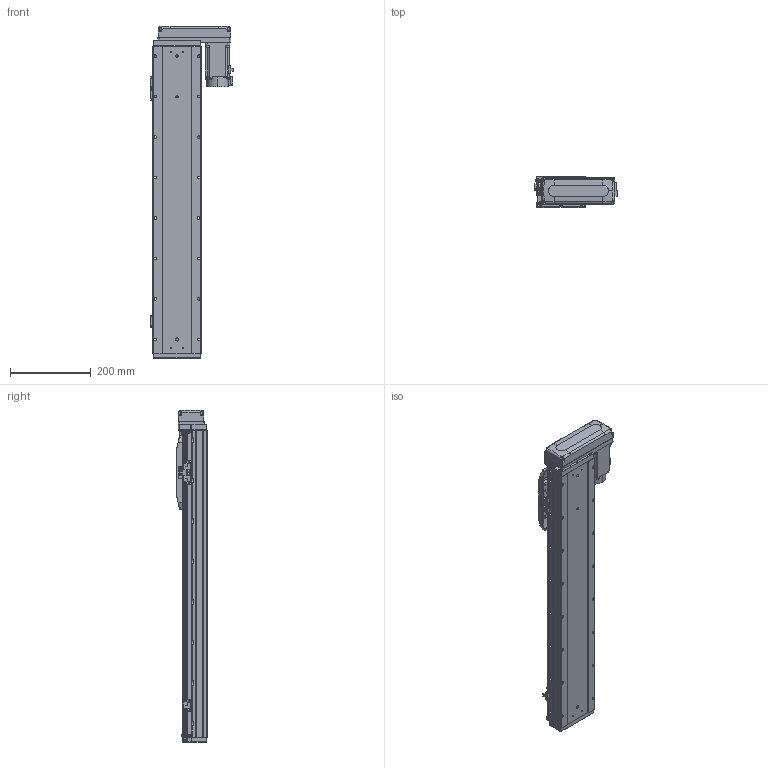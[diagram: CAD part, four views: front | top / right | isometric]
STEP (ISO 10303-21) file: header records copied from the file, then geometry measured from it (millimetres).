
FILE_DESCRIPTION (( 'STEP AP203' ), '1' );
FILE_NAME ('GTH12-550-BL-M40-C4.step', '2025-07-16T03:41:42', ( '' ), ( '' ), 'SwSTEP 2.0', 'SolidWorks 2023', '' );
FILE_SCHEMA (( 'CONFIG_CONTROL_DESIGN' ));
Length unit declared in the file: millimetre
Products named in the file (17): GBT 70.1-M5×16; GTH120-027-1_GTH120-027-2; hg-kn43j_-s100_; GTH120-013; GBT 70.1-M3×6; GBT 70.3-M3×8; GTH120-001_550; GTH120-004; CTHA86-033_M40B; GTH12-550-BL-M40-C4; 感应器总成右; 感应器总成左; GTH80-022; GTH120-006; GTH120-003; GTH80-028; BTH-M3X5X6
Assembly tree (38 placements, depth 2):
  GTH12-550-BL-M40-C4
    GTH120-001_550
    GTH120-003
    GTH120-006
    GTH120-004
    GTH120-013
    GBT 70.1-M3×6  x2
    GBT 70.1-M5×16  x10
    GBT 70.3-M3×8  x4
    GTH80-022
    GTH80-028  x2
    BTH-M3X5X6  x8
    hg-kn43j_-s100_
    CTHA86-033_M40B
    GTH120-027-1_GTH120-027-2
    感应器总成右  x2
    感应器总成左
Bounding box: 203.5 x 76 x 820.5 mm (x, y, z)
Volume: 6202621.5 mm3; surface area: 593368.9 mm2
Topology: 55 solids, 55 shells, 2382 faces, 5589 edges, 3443 vertices
Faces by surface type: plane 1220, cylinder 686, cone 300, torus 162, sphere 8, bspline 6
Entity records: 52067 total; most frequent: CARTESIAN_POINT 8912, DIRECTION 8808, ORIENTED_EDGE 8170, EDGE_CURVE 4085, AXIS2_PLACEMENT_3D 3072, VECTOR 2664, LINE 2664, VERTEX_POINT 2576
